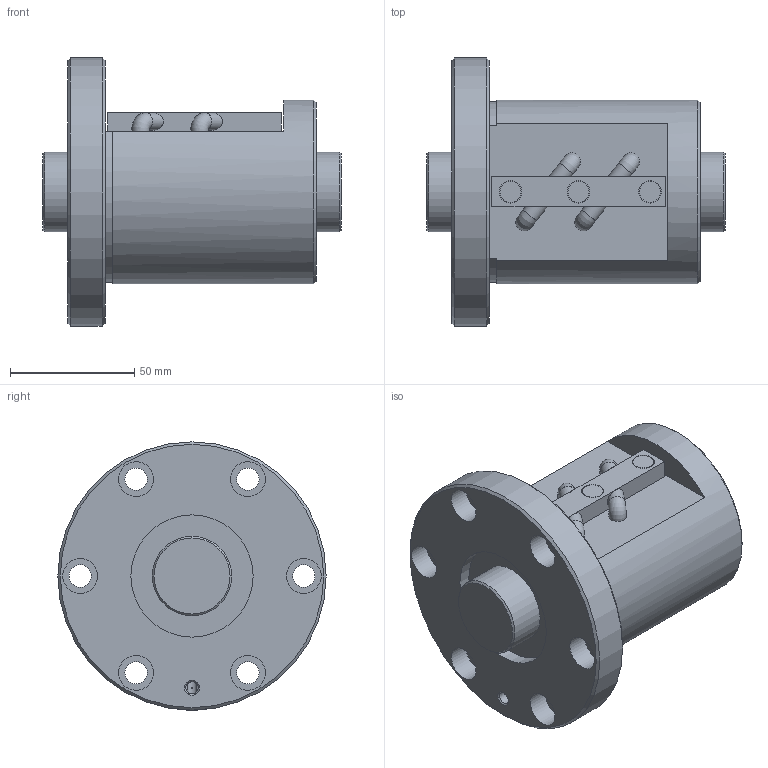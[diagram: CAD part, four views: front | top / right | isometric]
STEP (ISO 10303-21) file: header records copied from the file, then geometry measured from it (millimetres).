
FILE_DESCRIPTION(/* description */ ('STEP AP203'),/* implementation_level */ '2;1');
FILE_NAME(/* name */ 'BIF3210V-5RRG0+120LC0_000',/* time_stamp */ '2024-07-15T08:23:13+02:00',/* author */ ('License CC BY-ND 4.0'),/* organization */ ('CADENAS'),/* preprocessor_version */ 'ST-DEVELOPER v19.3',/* originating_system */ 'PARTsolutions',/* authorisation */ ' ');
FILE_SCHEMA (('CONFIG_CONTROL_DESIGN'));
Length unit declared in the file: millimetre
Products named in the file (3): BIF3210V-5RRG0+120LC0_000; BIF3210V-5RR000 Shaft; BIF3210V-5RR Nut
Assembly tree (2 placements, depth 2):
  BIF3210V-5RRG0+120LC0_000
    BIF3210V-5RR000 Shaft
    BIF3210V-5RR Nut
Bounding box: 120 x 108 x 108 mm (x, y, z)
Volume: 469196.4 mm3; surface area: 71393.1 mm2
Topology: 2 solids, 2 shells, 90 faces, 201 edges, 128 vertices
Faces by surface type: plane 41, cylinder 36, cone 9, torus 4
Full cylindrical faces by diameter (mm): 4.25 x2, 4.917 x1, 7 x4, 8.5 x3, 9 x6, 9.1 x3, 14 x6, 32 x2, 49.2 x2, 74 x1, 108 x1
Entity records: 2420 total; most frequent: CARTESIAN_POINT 470, DIRECTION 424, ORIENTED_EDGE 294, AXIS2_PLACEMENT_3D 195, FACE_BOUND 169, EDGE_LOOP 168, EDGE_CURVE 147, VERTEX_POINT 116
